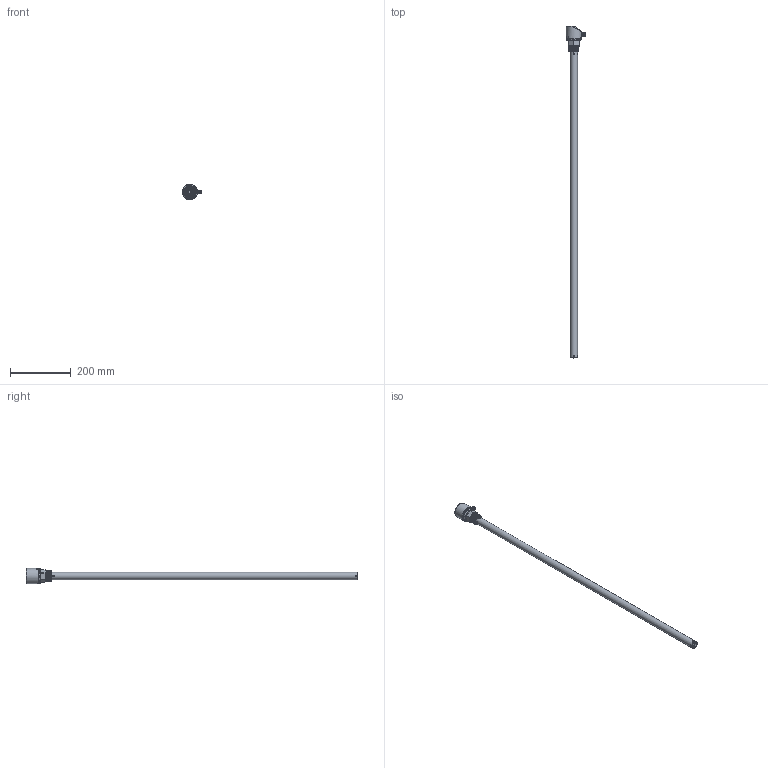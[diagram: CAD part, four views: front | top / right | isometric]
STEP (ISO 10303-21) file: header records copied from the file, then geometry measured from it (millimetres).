
FILE_DESCRIPTION (( 'STEP AP214' ), '1' );
FILE_NAME ('G1数显电容-1000（同轴）.STEP', '2025-03-11T06:23:27', ( '' ), ( '' ), 'SwSTEP 2.0', 'SolidWorks 2020', '' );
FILE_SCHEMA (( 'AUTOMOTIVE_DESIGN' ));
Length unit declared in the file: millimetre
Products named in the file (9): G1数显电容-1000（同轴）; 滅阨諉芛褲极1; 偌瑩簽; PVC躇猾菜; 揤薯奻裔; 揤薯珆尨欶; 肮粣奪; G1̽ͷ; 抻芛ㄗ蟀哿講ㄘ
Assembly tree (10 placements, depth 2):
  G1数显电容-1000（同轴）
    揤薯奻裔
    揤薯珆尨欶
    滅阨諉芛褲极1
    偌瑩簽  x3
    PVC躇猾菜
    抻芛ㄗ蟀哿講ㄘ
    肮粣奪
    G1̽ͷ
Bounding box: 64 x 1090.1 x 50 mm (x, y, z)
Volume: 233702.7 mm3; surface area: 207942.6 mm2
Topology: 10 solids, 10 shells, 321 faces, 759 edges, 491 vertices
Faces by surface type: plane 129, cylinder 118, cone 48, bspline 11, torus 11, sphere 4
Full cylindrical faces by diameter (mm): 1 x4, 1.2 x3, 1.8 x1, 2 x3, 2.5 x6, 2.8 x1, 4.3 x3, 4.5 x6, 5 x8, 6 x1, 7.2 x1, 8 x1, 8.5 x1, 9.75 x1, 10 x1, 10.49 x1, 10.5 x1, 10.8 x1, 10.9 x1, 11 x2, 12 x1, 21 x2, 24 x1, 30 x1, 35 x1, 35.5 x1, 42 x1, 43.9 x1, 45.4 x1, 45.6 x2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
Entity records: 13635 total; most frequent: CARTESIAN_POINT 6743, DIRECTION 1341, ORIENTED_EDGE 1134, EDGE_CURVE 567, AXIS2_PLACEMENT_3D 545, EDGE_LOOP 480, VERTEX_POINT 421, FACE_OUTER_BOUND 362
